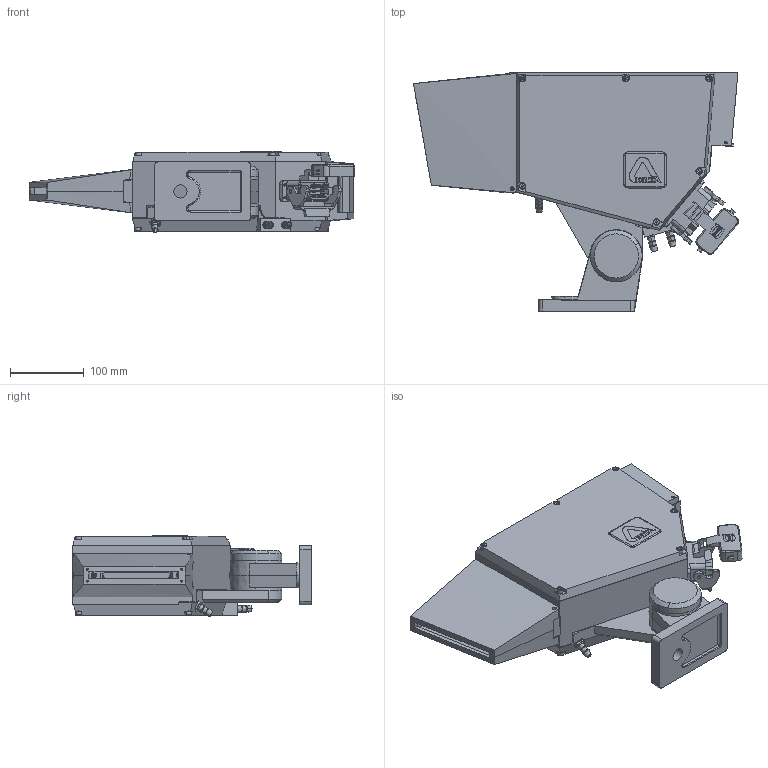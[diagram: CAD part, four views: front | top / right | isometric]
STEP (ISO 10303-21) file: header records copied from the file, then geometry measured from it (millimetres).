
FILE_DESCRIPTION (( 'STEP AP214' ), '1' );
FILE_NAME ('TS2036 Mechanical Dimensions.STEP', '2015-09-11T08:42:11', ( '' ), ( '' ), 'SwSTEP 2.0', 'SolidWorks 2014', '' );
FILE_SCHEMA (( 'AUTOMOTIVE_DESIGN' ));
Length unit declared in the file: millimetre
Products named in the file (19): Etiquette ref Delta; Water supply___; Slotted Pan Head Screw_DIN_ISO 1580 - M4 x 10 --- 10N; Cooling plate for TS___; toggle joint___; Socket Head Cap Screw_DIN_DIN 912 M5 x 16 --- 16N; TS2036 Mechanical Dimensions; Hood for DC-TS2000___; Housing cover___; Air supply Long___; connect harting 15B; connect; connect2; connect 3; support for TS___; Rear Cover___; A15019___; Housing for TS MD___; logo delta
Assembly tree (46 placements, depth 3):
  TS2036 Mechanical Dimensions
    Socket Head Cap Screw_DIN_DIN 912 M5 x 16 --- 16N  x14
    toggle joint___
    Cooling plate for TS___
    Slotted Pan Head Screw_DIN_ISO 1580 - M4 x 10 --- 10N
    Water supply___  x2
    Etiquette ref Delta
    logo delta
    Housing for TS MD___
    A15019___
    Rear Cover___
    support for TS___
    connect harting 15B
      connect 3  x15
      connect2
      connect
    Air supply Long___
    Housing cover___
    Hood for DC-TS2000___
Bounding box: 440.87 x 323.62 x 110.32 mm (x, y, z)
Volume: 5820194 mm3; surface area: 705442.5 mm2
Topology: 45 solids, 45 shells, 3610 faces, 9117 edges, 5817 vertices
Faces by surface type: plane 1849, cylinder 952, bspline 609, cone 200
Entity records: 104061 total; most frequent: CARTESIAN_POINT 28517, ORIENTED_EDGE 15140, DIRECTION 12230, EDGE_CURVE 7570, VERTEX_POINT 4962, VECTOR 4930, LINE 4930, AXIS2_PLACEMENT_3D 3650
